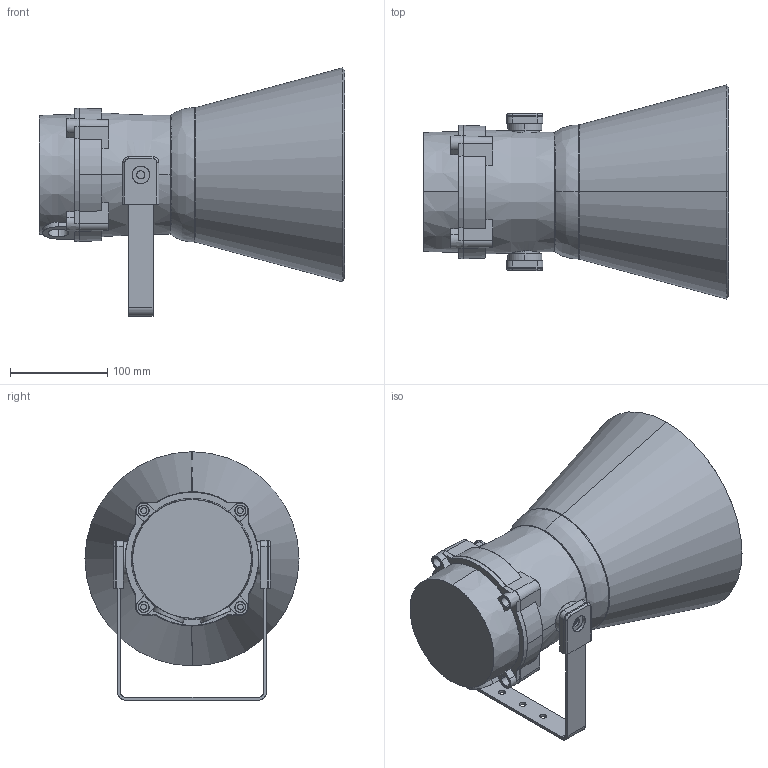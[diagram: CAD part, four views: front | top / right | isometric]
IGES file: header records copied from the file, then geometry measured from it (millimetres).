
Start section: SolidWorks IGES file using analytic representation for surfaces
Global section: file name: L:\3D Volumenmodelle\BEX\BEXS\BEXS120d\SK0114-3D_Issue_A.IGS; native system: SolidWorks 2015; preprocessor: SolidWorks 2015; author: PDG_MM; date: 170623.155333; units: millimetre
Bounding box: 313 x 219.56 x 254.78 mm (x, y, z)
Surface area: 363094.9 mm2 (no closed solid volume)
Topology: 0 solids, 0 shells, 238 faces, 4907 edges, 4907 vertices
Faces by surface type: revolution 121, bspline 117
